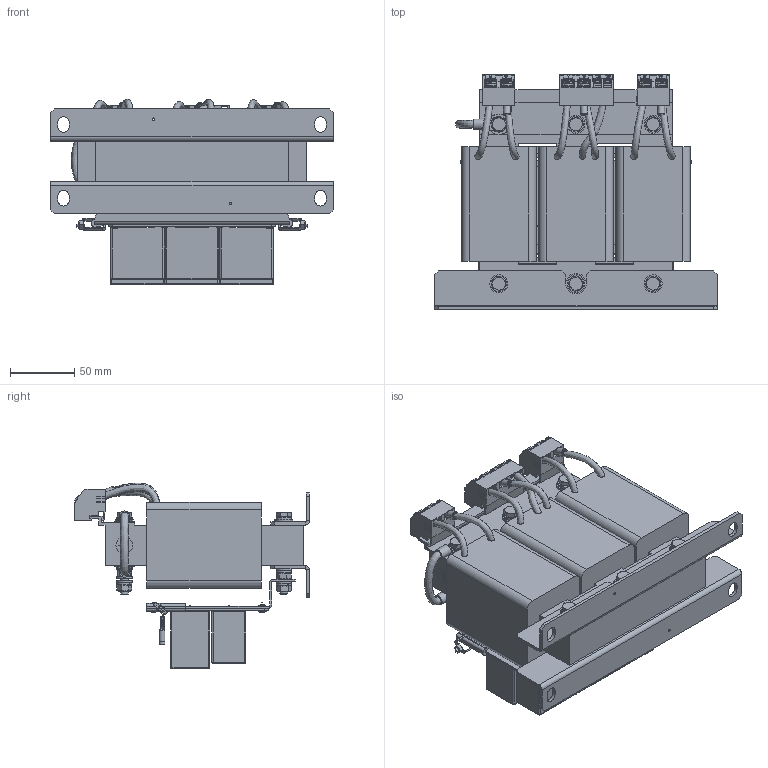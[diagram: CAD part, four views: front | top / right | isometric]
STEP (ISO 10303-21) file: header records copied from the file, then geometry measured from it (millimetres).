
FILE_DESCRIPTION(/* description */ (''),/* implementation_level */ '2;1');
FILE_NAME(/* name */ 'C:\Users\Erika.Jenzer\OneDrive - Schaffner EMV AG\BELLA\STEP FILES BELLA\FN\FN5420-18-89-E0XXT.stp',/* time_stamp */ '2021-07-07T16:53:30+02:00',/* author */ ('erika.jenzer'),/* organization */ (''),/* preprocessor_version */ 'ST-DEVELOPER v18.1',/* originating_system */ 'Autodesk Inventor 2020',/* authorisation */ '');
FILE_SCHEMA (('AUTOMOTIVE_DESIGN { 1 0 10303 214 3 1 1 }'));
Products named in the file (1): FN5420-18-89-E0XXT
Bounding box: 220 x 182.75 x 144.4 mm (x, y, z)
Volume: 1784860.5 mm3; surface area: 296767.8 mm2
Topology: 1 solids, 94 shells, 4218 faces, 11260 edges, 7373 vertices
Faces by surface type: plane 3001, cylinder 878, cone 148, bspline 107, sphere 56, torus 28
Full cylindrical faces by diameter (mm): 0.013 x2, 1 x36, 1.2 x12, 1.8 x3, 2 x5, 2.013 x2, 2.7 x3, 3 x2, 3.2 x4, 3.3 x4, 3.4 x4, 3.5 x7, 4 x4, 4.5 x5, 5.2 x4, 5.7 x2, 5.8 x2, 6 x21, 6.1 x7, 6.4 x16, 6.5 x12, 6.6 x4, 7.6 x5, 8.2 x2, 8.4 x1, 8.5 x6, 8.9 x6, 12 x14, 13 x1, 14 x5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
Entity records: 140955 total; most frequent: CARTESIAN_POINT 31892, ORIENTED_EDGE 22488, DIRECTION 21429, EDGE_CURVE 11244, LINE 7613, VECTOR 7613, VERTEX_POINT 7373, AXIS2_PLACEMENT_3D 6908
